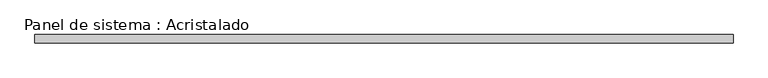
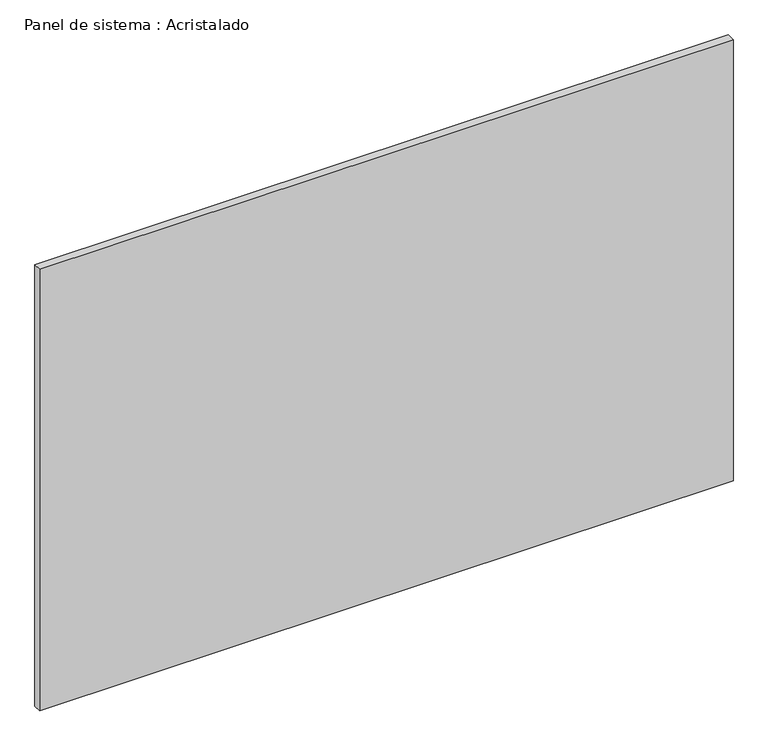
"""IFC4 building model written with IfcOpenShell, lengths in millimetres: plate geometry, Panel de sistema : Acristalado."""

from ifc_helpers import new_model, si_unit, origin, origin_with_axes, place, context, project, spatial, polyline, outline, extrude, source, transform, mapped, element, save


def panel_de_sistema_acristalado_d4d5e701(model_context):
    return source(origin(), model_context, "Body", "SweptSolid", [
        extrude(outline(polyline([(858.1762164, -10.0), (-858.1762164, -10.0), (-858.1762164, 10.0), (858.1762164, 10.0), (858.1762164, -10.0)])), origin_with_axes(), (0.0, 0.0, 1.0), 1155.0),
    ])


if __name__ == "__main__":
    model = new_model("IFC4")
    model_context = context("Model", 3, world=origin())
    ifc_project = project(units=[si_unit("LENGTHUNIT", "METRE", prefix="MILLI")], contexts=[model_context])
    site = spatial("IfcSite", under=ifc_project)
    building = spatial("IfcBuilding", under=site)
    placement = place(None, origin())
    panel_de_sistema_acristalado_shape = panel_de_sistema_acristalado_d4d5e701(model_context)
    element("IfcPlate", 1, ObjectType="Panel de sistema : Acristalado", at=placement, inside=building, context=model_context, shape_type="MappedRepresentation", body=[
        mapped(panel_de_sistema_acristalado_shape, transform((0.0, 0.0, 0.0), x_axis=(1.0, 0.0, 0.0), y_axis=(0.0, 1.0, 0.0), z_axis=(0.0, 0.0, 1.0))),
    ])
    save(model, "model.ifc")
